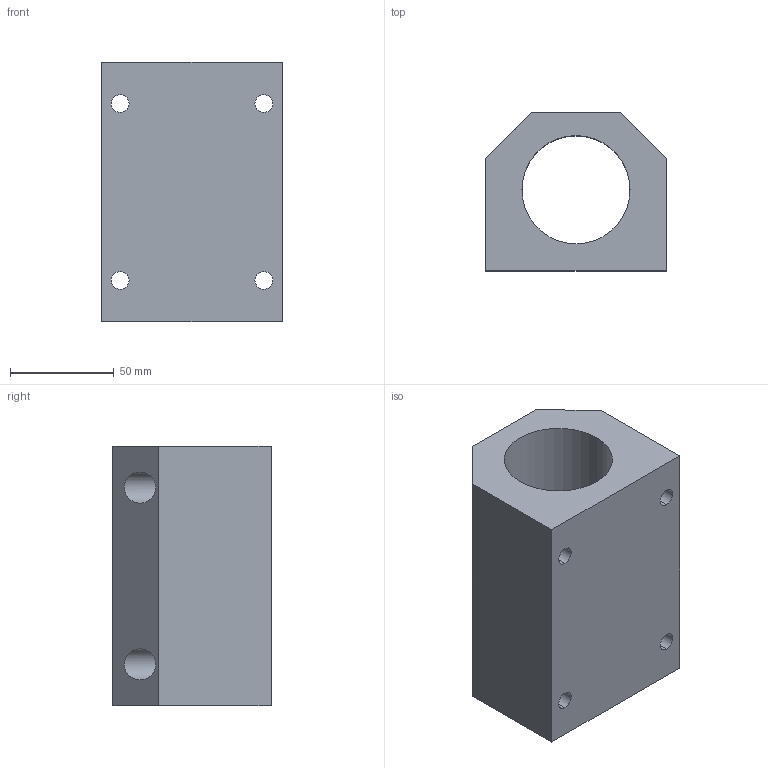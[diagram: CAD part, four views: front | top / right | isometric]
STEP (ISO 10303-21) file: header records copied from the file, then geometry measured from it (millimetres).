
FILE_DESCRIPTION (( 'STEP AP203' ), '1' );
FILE_NAME ('KTGC29-40.SLDPRT.step', '2020-05-14T12:02:37', ( '' ), ( '' ), 'SwSTEP 2.0', 'SolidWorks 2019', '' );
FILE_SCHEMA (( 'CONFIG_CONTROL_DESIGN' ));
Length unit declared in the file: millimetre
Products named in the file (2): KTGC29-40.SLDPRT
Bounding box: 87 x 76 x 125 mm (x, y, z)
Volume: 473568.1 mm3; surface area: 74362.8 mm2
Topology: 1 solids, 1 shells, 36 faces, 86 edges, 56 vertices
Faces by surface type: cylinder 22, plane 12, cone 2
Entity records: 1281 total; most frequent: CARTESIAN_POINT 258, DIRECTION 186, ORIENTED_EDGE 172, EDGE_CURVE 86, AXIS2_PLACEMENT_3D 72, VERTEX_POINT 56, EDGE_LOOP 52, LINE 42
